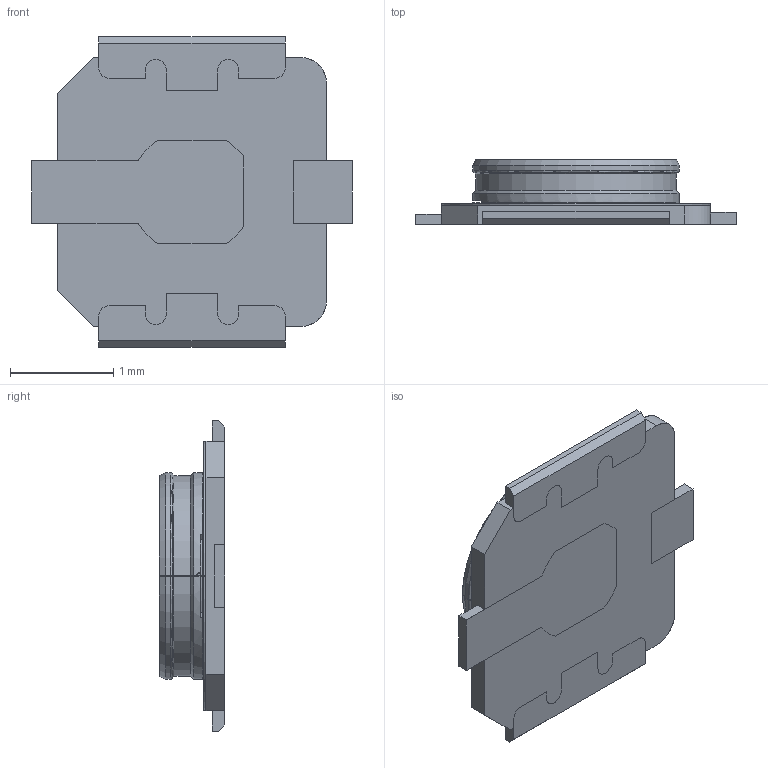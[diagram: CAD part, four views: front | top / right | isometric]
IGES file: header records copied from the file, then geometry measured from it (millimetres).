
Start section: SolidWorks IGES file using analytic representation for surfaces
Global section: file name: C:\3dwork\imaji\MHF-A\MHF-A13\20429C RECEPTACLE IGES R2 ALL.IGS; native system: SolidWorks 2017; preprocessor: SolidWorks 2017; author: ipxcad-013; date: 181212.141137; units: millimetre
Bounding box: 3.1 x 0.63 x 3 mm (x, y, z)
Surface area: 26 mm2 (no closed solid volume)
Topology: 0 solids, 0 shells, 83 faces, 776 edges, 776 vertices
Faces by surface type: bspline 55, revolution 28
